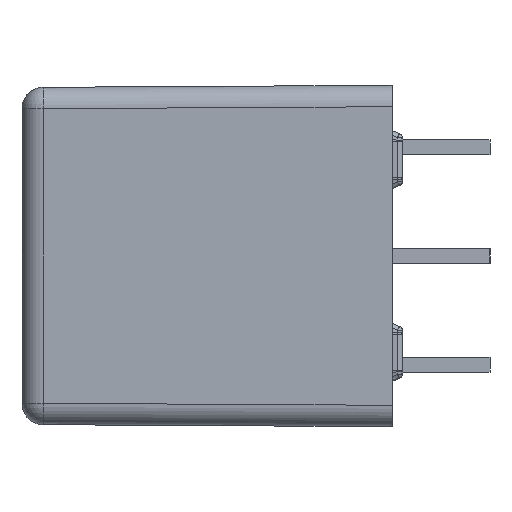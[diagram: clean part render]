
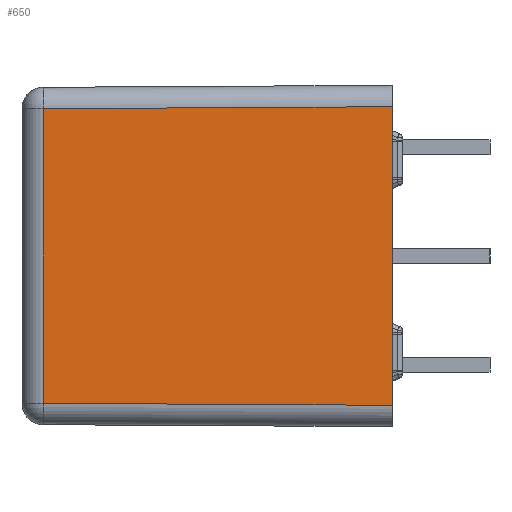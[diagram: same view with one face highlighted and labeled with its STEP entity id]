
A CAD part, left-side view. The second image highlights one B-rep face of the part: STEP entity #650.
In plain terms, the highlighted planar face has unit normal (-1, 0.006, 0).
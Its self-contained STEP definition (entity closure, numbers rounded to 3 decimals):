
#650 = ADVANCED_FACE ( 'NONE', ( #17588 ), #26569, .T. ) ;
#2094 = EDGE_LOOP ( 'NONE', ( #23231, #5793, #27496, #3148 ) ) ;
#2344 = VERTEX_POINT ( 'NONE', #7115 ) ;
#2842 = LINE ( 'NONE', #22312, #8041 ) ;
#3148 = ORIENTED_EDGE ( 'NONE', *, *, #22086, .F. ) ;
#3522 = DIRECTION ( 'NONE',  ( -0.006, -1., -0.006 ) ) ;
#3696 = CARTESIAN_POINT ( 'NONE',  ( -28.834, 25.156, -6.884 ) ) ;
#3782 = VERTEX_POINT ( 'NONE', #27092 ) ;
#4046 = VECTOR ( 'NONE', #3522, 1000. ) ;
#4679 = AXIS2_PLACEMENT_3D ( 'NONE', #17854, #26431, #11766 ) ;
#5506 = DIRECTION ( 'NONE',  ( 0., 0., -1. ) ) ;
#5793 = ORIENTED_EDGE ( 'NONE', *, *, #15795, .T. ) ;
#6452 = CARTESIAN_POINT ( 'NONE',  ( -28.925, 8.844, 6.975 ) ) ;
#7115 = CARTESIAN_POINT ( 'NONE',  ( -28.925, 8.85, 6.975 ) ) ;
#7998 = VECTOR ( 'NONE', #5506, 1000. ) ;
#8041 = VECTOR ( 'NONE', #24689, 1000. ) ;
#10044 = EDGE_CURVE ( 'NONE', #19069, #3782, #22840, .T. ) ;
#11417 = VERTEX_POINT ( 'NONE', #11430 ) ;
#11430 = CARTESIAN_POINT ( 'NONE',  ( -28.834, 25.156, 6.884 ) ) ;
#11766 = DIRECTION ( 'NONE',  ( -0.006, -1., 0. ) ) ;
#12393 = LINE ( 'NONE', #16363, #7998 ) ;
#14846 = VECTOR ( 'NONE', #23943, 1000. ) ;
#15795 = EDGE_CURVE ( 'NONE', #11417, #19069, #12393, .T. ) ;
#16363 = CARTESIAN_POINT ( 'NONE',  ( -28.834, 25.156, 7.975 ) ) ;
#17344 = LINE ( 'NONE', #6452, #14846 ) ;
#17588 = FACE_OUTER_BOUND ( 'NONE', #2094, .T. ) ;
#17854 = CARTESIAN_POINT ( 'NONE',  ( -28.925, 8.85, 7.975 ) ) ;
#19069 = VERTEX_POINT ( 'NONE', #3696 ) ;
#22086 = EDGE_CURVE ( 'NONE', #2344, #3782, #2842, .T. ) ;
#22312 = CARTESIAN_POINT ( 'NONE',  ( -28.925, 8.85, 7.975 ) ) ;
#22840 = LINE ( 'NONE', #23096, #4046 ) ;
#22890 = EDGE_CURVE ( 'NONE', #2344, #11417, #17344, .T. ) ;
#23096 = CARTESIAN_POINT ( 'NONE',  ( -28.925, 8.844, -6.975 ) ) ;
#23231 = ORIENTED_EDGE ( 'NONE', *, *, #22890, .T. ) ;
#23943 = DIRECTION ( 'NONE',  ( 0.006, 1., -0.006 ) ) ;
#24689 = DIRECTION ( 'NONE',  ( 0., 0., -1. ) ) ;
#26431 = DIRECTION ( 'NONE',  ( -1., 0.006, 0. ) ) ;
#26569 = PLANE ( 'NONE',  #4679 ) ;
#27092 = CARTESIAN_POINT ( 'NONE',  ( -28.925, 8.85, -6.975 ) ) ;
#27496 = ORIENTED_EDGE ( 'NONE', *, *, #10044, .T. ) ;
